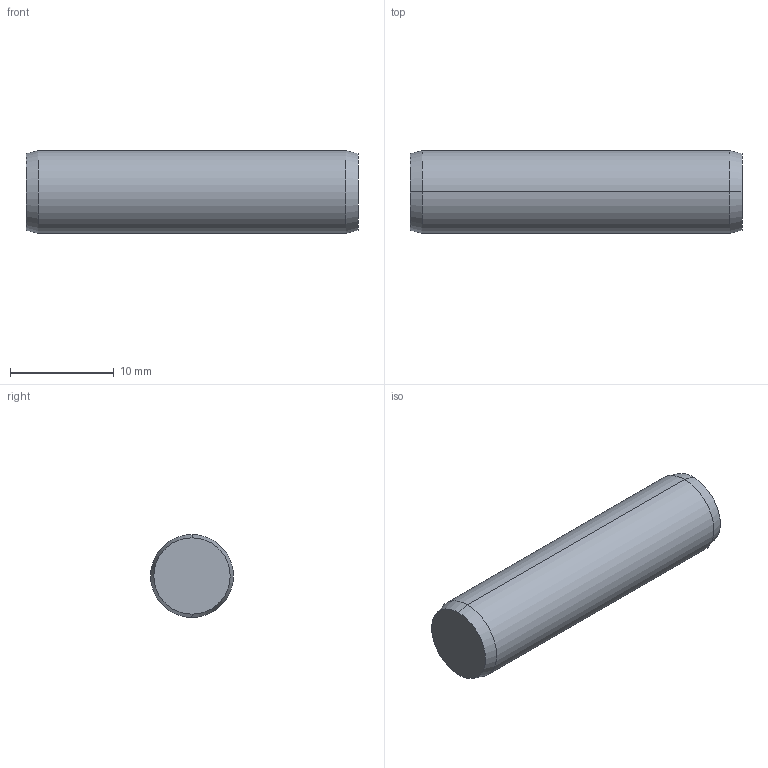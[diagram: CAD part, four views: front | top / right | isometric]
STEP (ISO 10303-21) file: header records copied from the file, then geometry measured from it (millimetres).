
FILE_DESCRIPTION (( 'STEP AP203' ), '1' );
FILE_NAME ('P1206.080-032.step', '2017-06-14T08:27:19', ( 'User' ), ( '' ), 'SwSTEP 2.0', 'SolidWorks 2009', '' );
FILE_SCHEMA (( 'CONFIG_CONTROL_DESIGN' ));
Length unit declared in the file: millimetre
Products named in the file (1): P1206.080-032
Bounding box: 32 x 8 x 8 mm (x, y, z)
Volume: 1599.1 mm3; surface area: 888.9 mm2
Topology: 1 solids, 1 shells, 8 faces, 14 edges, 8 vertices
Faces by surface type: cone 4, cylinder 2, plane 2
Entity records: 271 total; most frequent: DIRECTION 40, CARTESIAN_POINT 31, ORIENTED_EDGE 28, AXIS2_PLACEMENT_3D 17, EDGE_CURVE 14, ADVANCED_FACE 8, EDGE_LOOP 8, FACE_OUTER_BOUND 8
